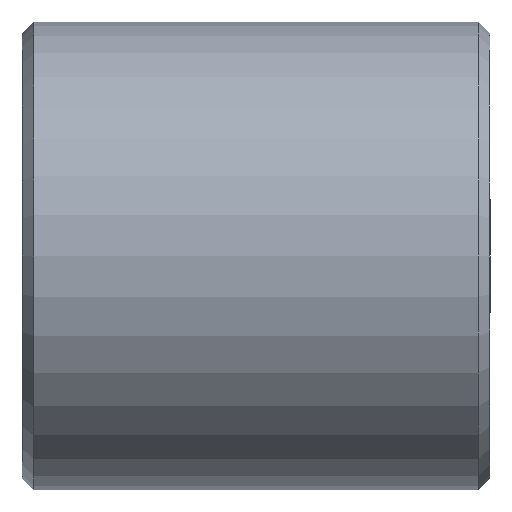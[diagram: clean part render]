
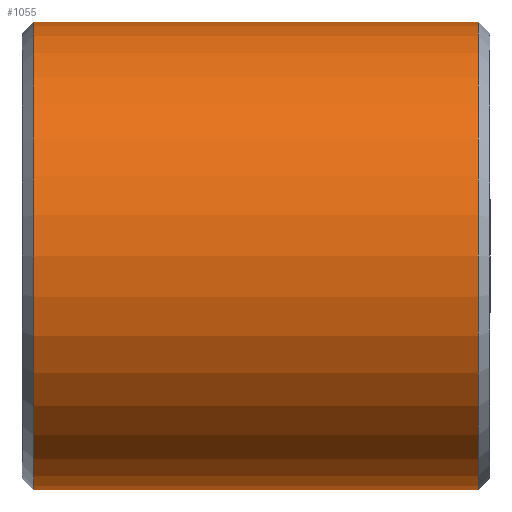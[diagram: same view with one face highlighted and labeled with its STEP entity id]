
A CAD part, left-side view. The second image highlights one B-rep face of the part: STEP entity #1055.
In plain terms, the highlighted cylindrical face has radius 10 mm (diameter 20 mm), a partial arc.
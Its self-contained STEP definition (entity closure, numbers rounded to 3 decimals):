
#10 = DIRECTION ( 'NONE',  ( 0., 1., 0. ) ) ;
#30 = FACE_OUTER_BOUND ( 'NONE', #164, .T. ) ;
#34 = EDGE_CURVE ( 'NONE', #1344, #484, #1000, .T. ) ;
#146 = DIRECTION ( 'NONE',  ( 0., 0., 1. ) ) ;
#159 = AXIS2_PLACEMENT_3D ( 'NONE', #459, #665, #146 ) ;
#164 = EDGE_LOOP ( 'NONE', ( #285, #1164, #1368, #1097 ) ) ;
#184 = LINE ( 'NONE', #714, #536 ) ;
#193 = CARTESIAN_POINT ( 'NONE',  ( 0., -18., 10. ) ) ;
#247 = VERTEX_POINT ( 'NONE', #386 ) ;
#285 = ORIENTED_EDGE ( 'NONE', *, *, #616, .F. ) ;
#369 = DIRECTION ( 'NONE',  ( 0., -1., 0. ) ) ;
#386 = CARTESIAN_POINT ( 'NONE',  ( 0., 1., -10. ) ) ;
#434 = DIRECTION ( 'NONE',  ( 0., 0., -1. ) ) ;
#459 = CARTESIAN_POINT ( 'NONE',  ( 0., 65.513, 0. ) ) ;
#484 = VERTEX_POINT ( 'NONE', #193 ) ;
#536 = VECTOR ( 'NONE', #840, 1000. ) ;
#616 = EDGE_CURVE ( 'NONE', #1344, #247, #184, .T. ) ;
#622 = VERTEX_POINT ( 'NONE', #1043 ) ;
#665 = DIRECTION ( 'NONE',  ( 0., 1., 0. ) ) ;
#670 = CIRCLE ( 'NONE', #781, 10. ) ;
#675 = AXIS2_PLACEMENT_3D ( 'NONE', #1287, #10, #434 ) ;
#710 = LINE ( 'NONE', #1197, #1082 ) ;
#714 = CARTESIAN_POINT ( 'NONE',  ( 0., 65.513, -10. ) ) ;
#730 = CARTESIAN_POINT ( 'NONE',  ( 0., -18., -10. ) ) ;
#762 = DIRECTION ( 'NONE',  ( 0., 1., 0. ) ) ;
#781 = AXIS2_PLACEMENT_3D ( 'NONE', #1325, #369, #1116 ) ;
#840 = DIRECTION ( 'NONE',  ( 0., 1., 0. ) ) ;
#1000 = CIRCLE ( 'NONE', #675, 10. ) ;
#1043 = CARTESIAN_POINT ( 'NONE',  ( 0., 1., 10. ) ) ;
#1055 = ADVANCED_FACE ( 'NONE', ( #30 ), #1336, .T. ) ;
#1082 = VECTOR ( 'NONE', #762, 1000. ) ;
#1097 = ORIENTED_EDGE ( 'NONE', *, *, #1181, .T. ) ;
#1112 = EDGE_CURVE ( 'NONE', #484, #622, #710, .T. ) ;
#1116 = DIRECTION ( 'NONE',  ( 0., 0., 1. ) ) ;
#1164 = ORIENTED_EDGE ( 'NONE', *, *, #34, .T. ) ;
#1181 = EDGE_CURVE ( 'NONE', #622, #247, #670, .T. ) ;
#1197 = CARTESIAN_POINT ( 'NONE',  ( 0., 65.513, 10. ) ) ;
#1287 = CARTESIAN_POINT ( 'NONE',  ( 0., -18., 0. ) ) ;
#1325 = CARTESIAN_POINT ( 'NONE',  ( 0., 1., 0. ) ) ;
#1336 = CYLINDRICAL_SURFACE ( 'NONE', #159, 10. ) ;
#1344 = VERTEX_POINT ( 'NONE', #730 ) ;
#1368 = ORIENTED_EDGE ( 'NONE', *, *, #1112, .T. ) ;
